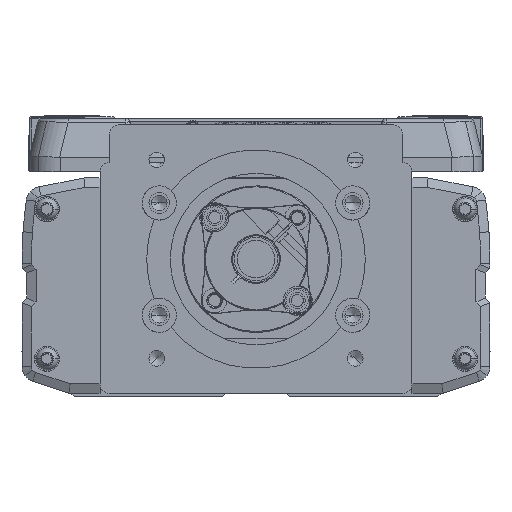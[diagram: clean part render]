
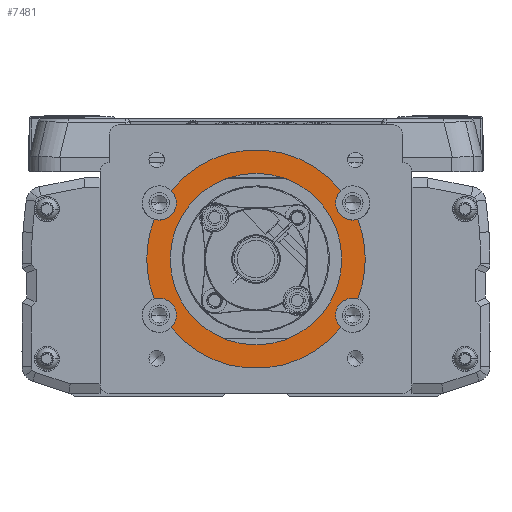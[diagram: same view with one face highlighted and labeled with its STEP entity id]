
A CAD part, left-side view. The second image highlights one B-rep face of the part: STEP entity #7481.
In plain terms, the highlighted planar face has unit normal (-1, 0, 0).
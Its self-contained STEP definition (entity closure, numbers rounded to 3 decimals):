
#7481=ADVANCED_FACE('',(#16116,#16117),#16118,.F.);
#16116=FACE_OUTER_BOUND('',#27343,.T.);
#16117=FACE_BOUND('',#27344,.T.);
#16118=PLANE('',#27345);
#27343=EDGE_LOOP('',(#48540,#48541,#48542,#48543,#48544,#48545,#48546,#48547,#48548,#48549,#48550,#48551,#48552,#48553));
#27344=EDGE_LOOP('',(#48554,#48555));
#27345=AXIS2_PLACEMENT_3D('',#48556,#48557,#48558);
#48540=ORIENTED_EDGE('',*,*,#68634,.F.);
#48541=ORIENTED_EDGE('',*,*,#68635,.T.);
#48542=ORIENTED_EDGE('',*,*,#60947,.T.);
#48543=ORIENTED_EDGE('',*,*,#68636,.F.);
#48544=ORIENTED_EDGE('',*,*,#68637,.F.);
#48545=ORIENTED_EDGE('',*,*,#68133,.T.);
#48546=ORIENTED_EDGE('',*,*,#64075,.F.);
#48547=ORIENTED_EDGE('',*,*,#68638,.F.);
#48548=ORIENTED_EDGE('',*,*,#68101,.T.);
#48549=ORIENTED_EDGE('',*,*,#68639,.T.);
#48550=ORIENTED_EDGE('',*,*,#68640,.F.);
#48551=ORIENTED_EDGE('',*,*,#68641,.F.);
#48552=ORIENTED_EDGE('',*,*,#68642,.T.);
#48553=ORIENTED_EDGE('',*,*,#64123,.F.);
#48554=ORIENTED_EDGE('',*,*,#62952,.F.);
#48555=ORIENTED_EDGE('',*,*,#67198,.F.);
#48556=CARTESIAN_POINT('',(-69.,0.,0.));
#48557=DIRECTION('',(1.0,0.,0.));
#48558=DIRECTION('',(0.,1.0,0.));
#60947=EDGE_CURVE('',#72468,#72473,#72475,.T.);
#62952=EDGE_CURVE('',#75966,#75962,#75968,.T.);
#64075=EDGE_CURVE('',#77820,#77822,#77823,.T.);
#64123=EDGE_CURVE('',#77895,#77897,#77898,.T.);
#67198=EDGE_CURVE('',#75962,#75966,#82517,.T.);
#68101=EDGE_CURVE('',#83740,#83738,#83741,.T.);
#68133=EDGE_CURVE('',#83783,#77822,#83786,.T.);
#68634=EDGE_CURVE('',#84432,#77895,#84433,.T.);
#68635=EDGE_CURVE('',#84432,#72468,#84434,.T.);
#68636=EDGE_CURVE('',#84435,#72473,#84436,.T.);
#68637=EDGE_CURVE('',#83783,#84435,#84437,.T.);
#68638=EDGE_CURVE('',#83740,#77820,#84438,.T.);
#68639=EDGE_CURVE('',#83738,#84439,#84440,.T.);
#68640=EDGE_CURVE('',#84441,#84439,#84442,.T.);
#68641=EDGE_CURVE('',#84443,#84441,#84444,.T.);
#68642=EDGE_CURVE('',#84443,#77897,#84445,.T.);
#72468=VERTEX_POINT('',#89156);
#72473=VERTEX_POINT('',#89162);
#72475=CIRCLE('',#89165,35.0);
#75962=VERTEX_POINT('',#94127);
#75966=VERTEX_POINT('',#94132);
#75968=CIRCLE('',#94135,27.5);
#77820=VERTEX_POINT('',#97733);
#77822=VERTEX_POINT('',#97736);
#77823=CIRCLE('',#97737,5.5);
#77895=VERTEX_POINT('',#97826);
#77897=VERTEX_POINT('',#97829);
#77898=CIRCLE('',#97830,5.5);
#82517=CIRCLE('',#104004,27.5);
#83738=VERTEX_POINT('',#105725);
#83740=VERTEX_POINT('',#105728);
#83741=CIRCLE('',#105729,35.0);
#83783=VERTEX_POINT('',#105779);
#83786=CIRCLE('',#105783,35.0);
#84432=VERTEX_POINT('',#106672);
#84433=CIRCLE('',#106673,5.5);
#84434=CIRCLE('',#106674,35.0);
#84435=VERTEX_POINT('',#106675);
#84436=CIRCLE('',#106676,5.5);
#84437=CIRCLE('',#106677,5.5);
#84438=CIRCLE('',#106678,5.5);
#84439=VERTEX_POINT('',#106679);
#84440=CIRCLE('',#106680,35.0);
#84441=VERTEX_POINT('',#106681);
#84442=CIRCLE('',#106682,5.5);
#84443=VERTEX_POINT('',#106683);
#84444=CIRCLE('',#106684,5.5);
#84445=CIRCLE('',#106685,35.0);
#89156=CARTESIAN_POINT('',(-69.,35.,0.));
#89162=CARTESIAN_POINT('',(-69.,32.6,-12.738));
#89165=AXIS2_PLACEMENT_3D('',#112003,#112004,#112005);
#94127=CARTESIAN_POINT('',(-69.,27.5,0.));
#94132=CARTESIAN_POINT('',(-69.,-27.5,0.));
#94135=AXIS2_PLACEMENT_3D('',#114971,#114972,#114973);
#97733=CARTESIAN_POINT('',(-69.,-25.5,-18.));
#97736=CARTESIAN_POINT('',(-69.,-27.223,-21.998));
#97737=AXIS2_PLACEMENT_3D('',#116549,#116550,#116551);
#97826=CARTESIAN_POINT('',(-69.,25.5,18.));
#97829=CARTESIAN_POINT('',(-69.,27.223,21.998));
#97830=AXIS2_PLACEMENT_3D('',#116624,#116625,#116626);
#104004=AXIS2_PLACEMENT_3D('',#121110,#121111,#121112);
#105725=CARTESIAN_POINT('',(-69.,-35.,0.));
#105728=CARTESIAN_POINT('',(-69.,-32.6,-12.738));
#105729=AXIS2_PLACEMENT_3D('',#122362,#122363,#122364);
#105779=CARTESIAN_POINT('',(-69.,27.223,-21.998));
#105783=AXIS2_PLACEMENT_3D('',#122419,#122420,#122421);
#106672=CARTESIAN_POINT('',(-69.,32.6,12.738));
#106673=AXIS2_PLACEMENT_3D('',#123084,#123085,#123086);
#106674=AXIS2_PLACEMENT_3D('',#123087,#123088,#123089);
#106675=CARTESIAN_POINT('',(-69.,25.5,-18.));
#106676=AXIS2_PLACEMENT_3D('',#123090,#123091,#123092);
#106677=AXIS2_PLACEMENT_3D('',#123093,#123094,#123095);
#106678=AXIS2_PLACEMENT_3D('',#123096,#123097,#123098);
#106679=CARTESIAN_POINT('',(-69.,-32.6,12.738));
#106680=AXIS2_PLACEMENT_3D('',#123099,#123100,#123101);
#106681=CARTESIAN_POINT('',(-69.,-25.5,18.));
#106682=AXIS2_PLACEMENT_3D('',#123102,#123103,#123104);
#106683=CARTESIAN_POINT('',(-69.,-27.223,21.998));
#106684=AXIS2_PLACEMENT_3D('',#123105,#123106,#123107);
#106685=AXIS2_PLACEMENT_3D('',#123108,#123109,#123110);
#112003=CARTESIAN_POINT('',(-69.,0.,0.));
#112004=DIRECTION('',(-1.0,0.,0.));
#112005=DIRECTION('',(0.,1.0,0.));
#114971=CARTESIAN_POINT('',(-69.,0.,0.));
#114972=DIRECTION('',(-1.0,0.,0.));
#114973=DIRECTION('',(0.,1.0,0.));
#116549=CARTESIAN_POINT('',(-69.,-31.,-18.));
#116550=DIRECTION('',(-1.0,0.,0.));
#116551=DIRECTION('',(0.,-1.0,0.));
#116624=CARTESIAN_POINT('',(-69.,31.,18.));
#116625=DIRECTION('',(-1.0,0.,0.));
#116626=DIRECTION('',(0.,1.0,0.));
#121110=CARTESIAN_POINT('',(-69.,0.,0.));
#121111=DIRECTION('',(-1.0,0.,0.));
#121112=DIRECTION('',(0.,1.0,0.));
#122362=CARTESIAN_POINT('',(-69.,0.,0.));
#122363=DIRECTION('',(-1.0,0.,0.));
#122364=DIRECTION('',(0.,1.0,0.));
#122419=CARTESIAN_POINT('',(-69.,0.,0.));
#122420=DIRECTION('',(-1.0,0.,0.));
#122421=DIRECTION('',(0.,1.0,0.));
#123084=CARTESIAN_POINT('',(-69.,31.,18.));
#123085=DIRECTION('',(-1.0,0.,0.));
#123086=DIRECTION('',(0.,1.0,0.));
#123087=CARTESIAN_POINT('',(-69.,0.,0.));
#123088=DIRECTION('',(-1.0,0.,0.));
#123089=DIRECTION('',(0.,1.0,0.));
#123090=CARTESIAN_POINT('',(-69.,31.,-18.));
#123091=DIRECTION('',(-1.0,0.,0.));
#123092=DIRECTION('',(0.,1.0,0.));
#123093=CARTESIAN_POINT('',(-69.,31.,-18.));
#123094=DIRECTION('',(-1.0,0.,0.));
#123095=DIRECTION('',(0.,1.0,0.));
#123096=CARTESIAN_POINT('',(-69.,-31.,-18.));
#123097=DIRECTION('',(-1.0,0.,0.));
#123098=DIRECTION('',(0.,-1.0,0.));
#123099=CARTESIAN_POINT('',(-69.,0.,0.));
#123100=DIRECTION('',(-1.0,0.,0.));
#123101=DIRECTION('',(0.,1.0,0.));
#123102=CARTESIAN_POINT('',(-69.,-31.,18.));
#123103=DIRECTION('',(-1.0,0.,0.));
#123104=DIRECTION('',(0.,-1.0,0.));
#123105=CARTESIAN_POINT('',(-69.,-31.,18.));
#123106=DIRECTION('',(-1.0,0.,0.));
#123107=DIRECTION('',(0.,-1.0,0.));
#123108=CARTESIAN_POINT('',(-69.,0.,0.));
#123109=DIRECTION('',(-1.0,0.,0.));
#123110=DIRECTION('',(0.,1.0,0.));
